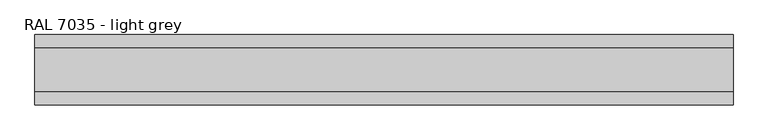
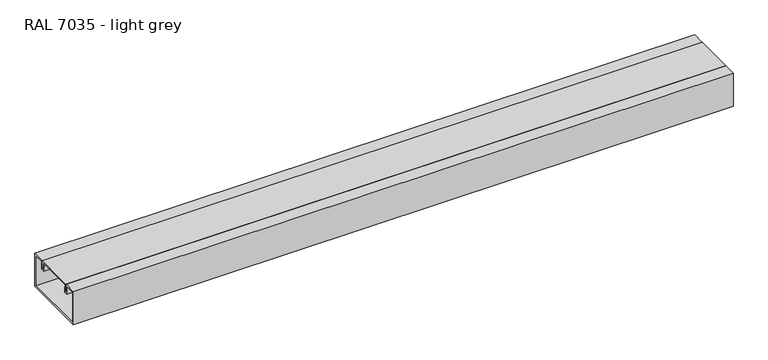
"""IFC4 building model written with IfcOpenShell, lengths in millimetres: proxy geometry, Electrical_Installations_Hager_BRP-Lid-End-Cap-One-Compartment : RAL 7035 - light grey."""

from ifc_helpers import new_model, si_unit, frame, origin, place, context, project, spatial, polyline, outline, extrude, source, transform, mapped, element, save


def ral_7035_light_grey_c76e6e88(model_context):
    return source(origin(), model_context, "Body", "SweptSolid", [
        extrude(outline(polyline([(40.0, 18.6492509), (37.5361498, 18.6492509), (37.5361498, 30.0), (-37.5361498, 30.0), (-37.5361498, 18.6492509), (-40.0, 18.6492509), (-40.0, 33.0), (40.0, 33.0), (40.0, 18.6492509)])), frame((0.0, 0.0, 0.0), z_axis=(1.0, 0.0, 0.0), x_axis=(0.0, 1.0, 0.0)), (0.0, 0.0, 1.0), 1286.6543311),
        extrude(outline(polyline([(65.0, 33.0), (65.0, -35.0582587), (-65.0, -35.0582587), (-65.0, 33.0), (-40.5, 33.0), (-40.5, 16.0), (-36.578125, 16.0), (-36.578125, 24.0415809), (-35.3, 24.0415809), (-35.3, 14.0), (-42.5, 14.0), (-42.5, 30.0), (-62.0, 30.0), (-62.0, -32.0582587), (62.0, -32.0582587), (62.0, 30.0), (42.5, 30.0), (42.5, 14.0), (35.221875, 14.0), (35.221875, 24.0415809), (36.5, 24.0415809), (36.5, 16.0), (40.5, 16.0), (40.5, 33.0), (65.0, 33.0)])), frame((0.0, 0.0, 0.0), z_axis=(1.0, 0.0, 0.0), x_axis=(0.0, 1.0, 0.0)), (0.0, 0.0, 1.0), 1286.6543311),
    ])


if __name__ == "__main__":
    model = new_model("IFC4")
    model_context = context("Model", 3, world=origin())
    ifc_project = project(units=[si_unit("LENGTHUNIT", "METRE", prefix="MILLI")], contexts=[model_context])
    site = spatial("IfcSite", under=ifc_project)
    building = spatial("IfcBuilding", under=site)
    placement = place(None, origin())
    ral_7035_light_grey_shape = ral_7035_light_grey_c76e6e88(model_context)
    element("IfcBuildingElementProxy", 1, Name="Electrical_Installations_Hager_BRP-Lid-End-Cap-One-Compartment : RAL 7035 - light grey", ObjectType="Electrical_Installations_Hager_BRP-Lid-End-Cap-One-Compartment : RAL 7035 - light grey", at=placement, inside=building, context=model_context, shape_type="MappedRepresentation", body=[
        mapped(ral_7035_light_grey_shape, transform((0.0, 0.0, 0.0), x_axis=(1.0, 0.0, 0.0), y_axis=(0.0, 1.0, 0.0), z_axis=(0.0, 0.0, 1.0))),
    ])
    save(model, "model.ifc")
